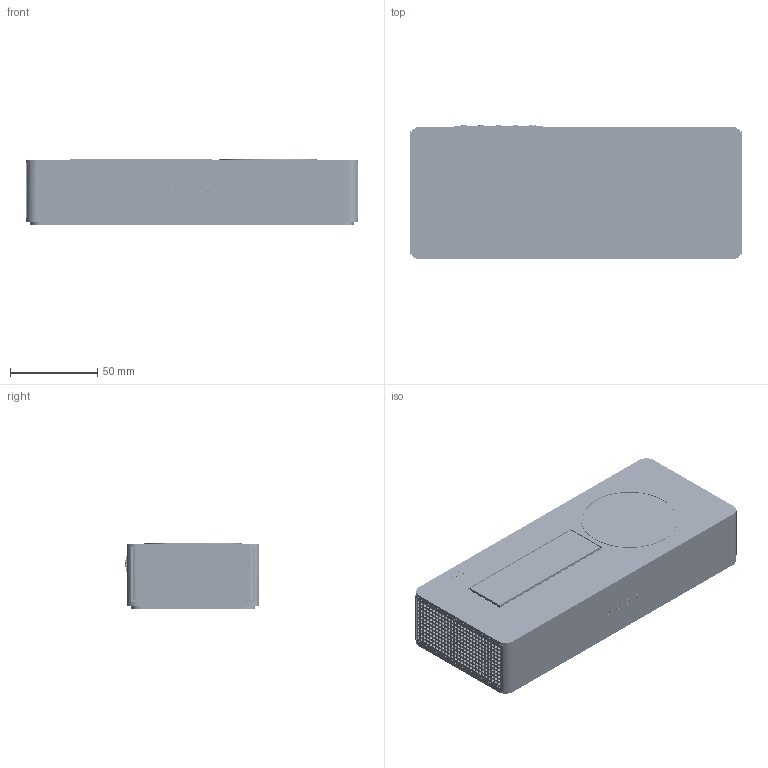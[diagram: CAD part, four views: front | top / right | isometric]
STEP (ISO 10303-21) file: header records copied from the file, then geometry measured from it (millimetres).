
FILE_DESCRIPTION(/* description */ (''),/* implementation_level */ '2;1');
FILE_NAME(/* name */ 'ansonia_revG_assembly.step',/* time_stamp */ '2026-11-23T19:34:12-05:00',/* author */ (''),/* organization */ (''),/* preprocessor_version */ 'ST-DEVELOPER v20.2',/* originating_system */ 'Autodesk Translation Framework v15.17.0.0',/* authorisation */ '');
FILE_SCHEMA (('AUTOMOTIVE_DESIGN { 1 0 10303 214 3 1 1 }'));
Products named in the file (390): 2026-11-23-19-31-29-044; 2026-11-23-19-31-30-030; 2026-11-23-19-31-30-244; 2026-11-23-19-31-30-279; 2026-11-23-19-31-30-312; 2026-11-23-19-31-30-331; 2026-11-23-19-31-30-340; 2026-11-23-19-31-30-349; 2026-11-23-19-31-30-362; 2026-11-23-19-31-30-372; 2026-11-23-19-31-30-383; 2026-11-23-19-31-31-356; 2026-11-23-19-31-31-370; 2026-11-23-19-31-31-381; 2026-11-23-19-31-31-392; 2026-11-23-19-31-31-401; 2026-11-23-19-31-31-413; 2026-11-23-19-31-31-424; 2026-11-23-19-31-31-436; 2026-11-23-19-31-31-457; 2026-11-23-19-31-31-478; 2026-11-23-19-31-31-493; 2026-11-23-19-31-31-506; 2026-11-23-19-31-31-530; 2026-11-23-19-31-31-547; 2026-11-23-19-31-31-563; 2026-11-23-19-31-31-576; 2026-11-23-19-31-31-589; 2026-11-23-19-31-31-604; 2026-11-23-19-31-31-617; 2026-11-23-19-31-31-630; 2026-11-23-19-31-31-643; 2026-11-23-19-31-31-655; 2026-11-23-19-31-31-665; 2026-11-23-19-31-31-675; 2026-11-23-19-31-31-686; 2026-11-23-19-31-31-699; 2026-11-23-19-31-31-752; 2026-11-23-19-31-31-780; 2026-11-23-19-31-31-795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
Assembly tree (655 placements, depth 10):
  2026-11-23-19-31-29-044
    2026-11-23-19-31-30-030
    2026-11-23-19-31-30-244
    2026-11-23-19-31-30-279
    2026-11-23-19-31-30-312
    2026-11-23-19-31-30-331
    2026-11-23-19-31-30-340
    2026-11-23-19-31-30-349
    2026-11-23-19-31-30-362
    2026-11-23-19-31-30-372
    2026-11-23-19-31-30-383
    2026-11-23-19-31-31-356
    2026-11-23-19-31-31-370
    2026-11-23-19-31-31-381
    2026-11-23-19-31-31-392
    2026-11-23-19-31-31-401
    2026-11-23-19-31-31-413
    2026-11-23-19-31-31-424
    2026-11-23-19-31-31-436
    2026-11-23-19-31-31-457
    2026-11-23-19-31-31-478
    2026-11-23-19-31-31-493
    2026-11-23-19-31-31-506
    2026-11-23-19-31-31-530
    2026-11-23-19-31-31-547
    2026-11-23-19-31-31-563
    2026-11-23-19-31-31-576
    2026-11-23-19-31-31-589
    2026-11-23-19-31-31-604
    2026-11-23-19-31-31-617
    2026-11-23-19-31-31-630
    2026-11-23-19-31-31-643
    2026-11-23-19-31-31-655
    2026-11-23-19-31-31-665
    2026-11-23-19-31-31-675
    2026-11-23-19-31-31-686
    2026-11-23-19-31-31-699
    2026-11-23-19-31-31-752
    2026-11-23-19-31-31-780
    2026-11-23-19-31-31-795
    2026-11-23-19-31-31-817
    2026-11-23-19-31-31-830
    2026-11-23-19-31-31-855
    2026-11-23-19-31-31-922
      carrier 1
        R_0402_1005Metric  x32
          R_0402_1005Metric_1
        TSSOP-16_4.4x5mm_P0.65mm  x3
          TSSOP-16_4.4x5mm_P0.65mm_1
        C_0402_1005Metric  x35
          C_0402_1005Metric_1
        C_0805_2012Metric  x13
          C_0805_2012Metric_1
        D_SOD-323  x2
          D_SOD-323_1
        D_SOD-523
          D_SOD_523
        L_1008_2520Metric  x3
          L_1008_2520Metric_1
        USON-10_2.5x1.0mm_P0.5mm
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Bounding box: 190 x 77.2 x 37.6 mm (x, y, z)
Volume: 264154.2 mm3; surface area: 282403.9 mm2
Topology: 589 solids, 594 shells, 24401 faces, 67487 edges, 43640 vertices
Faces by surface type: plane 17558, cylinder 6151, bspline 412, sphere 162, cone 98, torus 20
Full cylindrical faces by diameter (mm): 0.2 x5, 0.3 x33, 0.325 x1, 0.336 x1, 0.4 x9, 0.427 x1, 0.45 x16, 0.5 x12, 1 x8, 1.13 x1, 1.6 x605, 1.7 x1, 1.8 x3, 1.868 x1, 1.9 x3, 1.92 x3, 2 x10, 2.2 x4, 2.5 x6, 2.7 x4, 3 x5, 3.2 x8, 3.5 x5, 3.6 x1, 3.8 x4, 4 x9, 5 x4, 6 x4, 6.2 x4, 9 x4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
Entity records: 569589 total; most frequent: CARTESIAN_POINT 111452, ORIENTED_EDGE 94170, DIRECTION 87868, EDGE_CURVE 47085, LINE 38286, VECTOR 38286, VERTEX_POINT 30411, AXIS2_PLACEMENT_3D 24791
